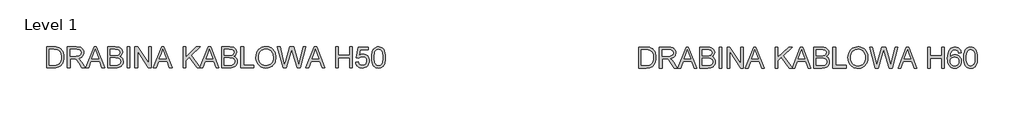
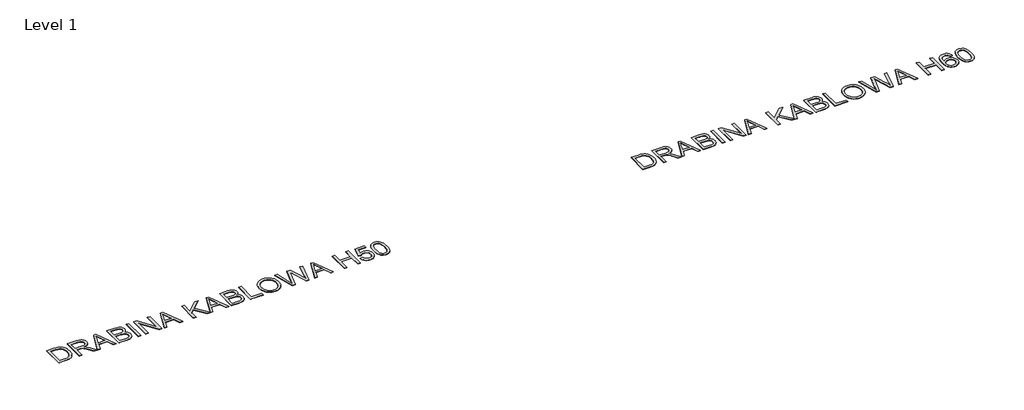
# One storey, part 9 of 9: 2 proxies.
"""IFC4 building model written with IfcOpenShell, lengths in millimetres."""

import ifcopenshell
import ifcopenshell.guid

model = None  # the IFC model being written
_history = None  # IfcOwnerHistory: only IFC2X3 demands one
_inside = {}  # id of a spatial element -> (the spatial element, [elements in it])
_under = {}  # id of a project, library or spatial element -> (it, [spatial elements below it])
_declared = {}  # id of a project -> (the project, [libraries it declares])
_typed = {}  # id of a type object -> (the type object, [elements of that type])
_made_of = {}  # id of a material, layer set ... -> (it, [elements and type objects made of it])


def new_model(schema):
    """Start an empty IFC model of exactly this schema.

    Asked for "IFC4X3", IfcOpenShell would pick the latest addendum, in which some entities
    have other attributes; the version numbers below select the first issue.
    IFC2X3 requires an IfcOwnerHistory on every rooted entity: one is made here for all.
    """
    global model, _history
    if schema == "IFC4X3":
        model = ifcopenshell.file(schema_version=(4, 3, 0, 0))
    else:
        model = ifcopenshell.file(schema=schema)
    _inside.clear()
    _under.clear()
    _declared.clear()
    _typed.clear()
    _made_of.clear()
    _history = None
    if model.schema == "IFC2X3":
        org = make("IfcOrganization", Name="unknown")
        user = make(
            "IfcPersonAndOrganization",
            ThePerson=make("IfcPerson", FamilyName="unknown"),
            TheOrganization=org,
        )
        app = make(
            "IfcApplication",
            ApplicationDeveloper=org,
            Version="unknown",
            ApplicationFullName="unknown",
            ApplicationIdentifier="unknown",
        )
        _history = make(
            "IfcOwnerHistory",
            OwningUser=user,
            OwningApplication=app,
            ChangeAction="ADDED",
            CreationDate=0,
        )
    return model


def make(cls, **values):
    """One entity of the class cls with the attributes given. An attribute that is None is left unset."""
    return model.create_entity(
        cls, **{name: value for name, value in values.items() if value is not None}
    )


def rooted(cls, **values):
    """An entity with a GlobalId (a new one), such as an element, a storey or a relation."""
    return make(cls, GlobalId=ifcopenshell.guid.new(), OwnerHistory=_history, **values)


def si_unit(unit_type, name, prefix=None):
    """IfcSIUnit, for example si_unit("LENGTHUNIT", "METRE", prefix="MILLI")."""
    return make("IfcSIUnit", UnitType=unit_type, Prefix=prefix, Name=name)


def assignment(units):
    """IfcUnitAssignment: the units of a project."""
    return None if units is None else make("IfcUnitAssignment", Units=units)


def point(xyz):
    """IfcCartesianPoint."""
    return None if xyz is None else make("IfcCartesianPoint", Coordinates=xyz)


def direction(xyz):
    """IfcDirection."""
    return None if xyz is None else make("IfcDirection", DirectionRatios=xyz)


def frame(location, z_axis=None, x_axis=None):
    """IfcAxis2Placement3D, a coordinate frame: its origin and axes. An axis left out is left unset."""
    return make(
        "IfcAxis2Placement3D",
        Location=point(location),
        Axis=direction(z_axis),
        RefDirection=direction(x_axis),
    )


def origin():
    """The frame at (0, 0, 0) with its axes left unset."""
    return frame((0.0, 0.0, 0.0))


def origin_with_axes():
    """The frame at (0, 0, 0) with the z axis (0, 0, 1) and the x axis (1, 0, 0) written out."""
    return frame((0.0, 0.0, 0.0), z_axis=(0.0, 0.0, 1.0), x_axis=(1.0, 0.0, 0.0))


def place(relative_to, where):
    """IfcLocalPlacement: puts the frame where relative to a parent placement (None: the world)."""
    return make(
        "IfcLocalPlacement", PlacementRelTo=relative_to, RelativePlacement=where
    )


def context(
    kind, dimensions, precision=None, world=None, true_north=None, identifier=None
):
    """IfcGeometricRepresentationContext, for example the 3D "Model" context."""
    return make(
        "IfcGeometricRepresentationContext",
        ContextIdentifier=identifier,
        ContextType=kind,
        CoordinateSpaceDimension=dimensions,
        Precision=precision,
        WorldCoordinateSystem=world,
        TrueNorth=true_north,
    )


def project(units=None, contexts=None):
    """IfcProject with its units and contexts."""
    return rooted(
        "IfcProject",
        Name="project",
        RepresentationContexts=contexts,
        UnitsInContext=assignment(units),
    )


def spatial(cls, under=None, at=None, **own):
    """A site, building, storey or space (cls), placed at a placement, below another one or the project."""
    s = rooted(cls, ObjectPlacement=at, **own)
    if under is not None:
        _under.setdefault(under.id(), (under, []))[1].append(s)
    return s


def polyline(points):
    """IfcPolyline through the points."""
    return make("IfcPolyline", Points=[point(p) for p in points])


def outline(outer, holes=None, kind="AREA"):
    """IfcArbitraryClosedProfileDef: a profile drawn as a closed curve; with holes, ...WithVoids."""
    if holes is None:
        return make("IfcArbitraryClosedProfileDef", ProfileType=kind, OuterCurve=outer)
    return make(
        "IfcArbitraryProfileDefWithVoids",
        ProfileType=kind,
        OuterCurve=outer,
        InnerCurves=holes,
    )


def extrude(swept, where, along, depth):
    """IfcExtrudedAreaSolid: the profile swept, set in the frame where, extruded along a direction by depth."""
    return make(
        "IfcExtrudedAreaSolid",
        SweptArea=swept,
        Position=where,
        ExtrudedDirection=direction(along),
        Depth=depth,
    )


def shape(context_of_items, identifier, shape_type, items):
    """IfcShapeRepresentation: the items that make up one representation, for example the "Body"."""
    return make(
        "IfcShapeRepresentation",
        ContextOfItems=context_of_items,
        RepresentationIdentifier=identifier,
        RepresentationType=shape_type,
        Items=items,
    )


def made_of(thing, what):
    """Note that an element or type object is made of a material, layer set ...; save() writes the relation."""
    if what is not None:
        _made_of.setdefault(what.id(), (what, []))[1].append(thing)
    return thing


def element(
    cls,
    number,
    at=None,
    inside=None,
    cuts=None,
    type_object=None,
    material=None,
    context=None,
    identifier="Body",
    shape_type=None,
    held_by="IfcProductDefinitionShape",
    body=None,
    shapes=None,
    **own,
):
    """One element of the class cls, such as IfcWall. Its Tag is "e" and its number.

    at: its placement. inside: the storey or other place that contains it. cuts: it is an
    opening in that element (IfcRelVoidsElement). A single representation is given by context,
    identifier, shape_type and body (its items); several are given by shapes. held_by: the class
    of the entity that holds the representations. save() writes the other relations.
    """
    e = rooted(cls, Tag="e%d" % number, ObjectPlacement=at, **own)
    if body is not None:
        shapes = [shape(context, identifier, shape_type, body)]
    if shapes is not None:
        e.Representation = make(held_by, Representations=shapes)
    if inside is not None:
        _inside.setdefault(inside.id(), (inside, []))[1].append(e)
    if cuts is not None:
        rooted(
            "IfcRelVoidsElement", RelatingBuildingElement=cuts, RelatedOpeningElement=e
        )
    if type_object is not None:
        _typed.setdefault(type_object.id(), (type_object, []))[1].append(e)
    return made_of(e, material)


def aggregate(whole, parts):
    """IfcRelAggregates: a whole, such as a stair, and the parts it consists of."""
    return rooted("IfcRelAggregates", RelatingObject=whole, RelatedObjects=parts)


def save(model, path):
    """Write the relations noted so far, then the file.

    IfcRelAggregates (storeys below a building ...), IfcRelContainedInSpatialStructure (elements
    in a storey), IfcRelDefinesByType, IfcRelAssociatesMaterial and IfcRelDeclares: one each for
    every whole, place, type object, material and project.
    """
    for whole, parts in _under.values():
        aggregate(whole, parts)
    for where, things in _inside.values():
        rooted(
            "IfcRelContainedInSpatialStructure",
            RelatedElements=things,
            RelatingStructure=where,
        )
    for kind, things in _typed.values():
        rooted("IfcRelDefinesByType", RelatedObjects=things, RelatingType=kind)
    for what, things in _made_of.values():
        rooted("IfcRelAssociatesMaterial", RelatedObjects=things, RelatingMaterial=what)
    for by, libraries in _declared.values():
        rooted("IfcRelDeclares", RelatingContext=by, RelatedDefinitions=libraries)
    model.write(path)


model = new_model("IFC4")

# Units and contexts
model_context = context("Model", 3, world=origin())
ifc_project = project(units=[si_unit("LENGTHUNIT", "METRE", prefix="MILLI")], contexts=[model_context])

# Site, building, storey
site = spatial("IfcSite", under=ifc_project)
building = spatial("IfcBuilding", under=site)
storey = spatial("IfcBuildingStorey", under=building, Name="Level 1", Elevation=0.0)

# Proxies
placement = place(None, origin())
element("IfcBuildingElementProxy", 1, Name="600mm Arial", ObjectType="600mm Arial", at=placement, inside=storey, context=model_context, shape_type="SweptSolid", body=[
    extrude(outline(polyline([(17173.9042945, 21573.8418267), (17173.9042945, 22164.6110574), (17377.7023714, 22164.6110574), (17438.6038137, 22162.4836536), (17483.1350637, 22156.1014421), (17530.2264099, 22139.6951921), (17569.9619868, 22113.8418267), (17591.8580204, 22092.712019), (17610.8153522, 22068.8418267), (17626.833982, 22042.2312497), (17639.9139099, 22012.8802882), (17650.0731647, 21981.0593747), (17657.3297753, 21947.0389421), (17663.1350637, 21872.399519), (17659.2047753, 21808.9920671), (17647.4139099, 21753.1927882), (17629.4571791, 21705.6867786), (17607.0292945, 21667.1591344), (17581.2119868, 21636.7444709), (17553.0869868, 21613.5774036), (17520.7973233, 21596.3959132), (17482.4860253, 21583.9379805), (17438.0809772, 21576.3658651), (17387.5100637, 21573.8418267), (17173.9042945, 21573.8418267)]), holes=[polyline([(17247.7504483, 21647.6879805), (17378.4235253, 21647.6879805), (17432.474006, 21650.3562497), (17473.4716022, 21658.3610574), (17504.4091022, 21671.2336536), (17528.2792945, 21688.5052882), (17553.9343426, 21720.4704324), (17573.2071791, 21761.8466344), (17585.2684772, 21812.8141824), (17589.2889099, 21873.5533651), (17587.3192584, 21916.4259613), (17581.4103041, 21954.0341344), (17571.5620469, 21986.3778844), (17557.7744868, 22013.4572113), (17541.1654123, 22035.8850959), (17522.8526118, 22054.274519), (17502.8360854, 22068.6254805), (17481.1158329, 22078.9379805), (17438.6398714, 22087.8081728), (17376.4042945, 22090.7649036), (17247.7504483, 22090.7649036), (17247.7504483, 21647.6879805)])]), origin_with_axes(), (0.0, 0.0, 1.0), 10.0),
    extrude(outline(polyline([(17764.6735253, 21573.8418267), (17764.6735253, 22164.6110574), (18019.2408329, 22164.6110574), (18087.6603041, 22160.6266824), (18137.4379483, 22148.6735574), (18156.6476839, 22139.1723555), (18173.8201599, 22126.6062497), (18188.9553762, 22110.9752401), (18202.0533329, 22092.2793267), (18212.622744, 22071.5236175), (18220.1723233, 22049.7132209), (18226.2119868, 22002.9283651), (18223.7104844, 21972.5858171), (18216.2059772, 21944.7312497), (18203.6984652, 21919.3646632), (18186.1879483, 21896.4860574), (18163.4490661, 21876.8256007), (18135.2564579, 21861.1134613), (18101.6101238, 21849.3496392), (18062.5100637, 21841.5341344), (18086.849006, 21825.6326921), (18104.4812176, 21809.9475959), (18164.3369868, 21733.9379805), (18262.8466022, 21573.8418267), (18177.0292945, 21573.8418267), (18100.1542945, 21696.2937497), (18044.6254483, 21777.3514421), (18023.9824195, 21800.9872594), (18005.6110253, 21815.6447113), (17970.4908329, 21829.7072113), (17927.6542945, 21832.3033651), (17838.5196791, 21832.3033651), (17838.5196791, 21573.8418267), (17764.6735253, 21573.8418267)]), holes=[polyline([(17838.5196791, 21906.149519), (18003.8081406, 21906.149519), (18051.2780926, 21908.7637017), (18088.1110253, 21916.6062497), (18115.8393906, 21930.1999997), (18135.9956406, 21950.0677882), (18148.2732849, 21974.1002401), (18152.3658329, 22000.1879805), (18150.4142104, 22019.0731969), (18144.5593426, 22036.2096151), (18134.8012296, 22051.5972353), (18121.1398714, 22065.2360574), (18103.2597632, 22076.4049276), (18080.8454003, 22084.3826921), (18053.8967825, 22089.1693507), (18022.4139099, 22090.7649036), (17838.5196791, 22090.7649036), (17838.5196791, 21906.149519)])]), origin_with_axes(), (0.0, 0.0, 1.0), 10.0),
    extrude(outline(polyline([(18286.6446791, 21573.8418267), (18522.4619868, 22164.6110574), (18585.3466022, 22164.6110574), (18821.1639099, 21573.8418267), (18743.1350637, 21573.8418267), (18675.4908329, 21758.4572113), (18432.1735253, 21758.4572113), (18364.6735253, 21573.8418267), (18286.6446791, 21573.8418267)]), holes=[polyline([(18459.2889099, 21832.3033651), (18648.5196791, 21832.3033651), (18595.2985253, 21977.5437497), (18553.9042945, 22090.7649036), (18517.1254483, 21990.2360574), (18459.2889099, 21832.3033651)])]), origin_with_axes(), (0.0, 0.0, 1.0), 10.0),
    extrude(outline(polyline([(18900.0581406, 21573.8418267), (18900.0581406, 22164.6110574), (19125.4908329, 22164.6110574), (19187.4920349, 22160.2661055), (19235.8994868, 22147.2312497), (19273.0028522, 22125.1819709), (19288.1741262, 22110.6552281), (19301.0917945, 22093.7937497), (19318.7780926, 22056.8706728), (19324.6735253, 22018.2168267), (19319.7155926, 21982.6459132), (19304.8417945, 21949.2024036), (19279.9439579, 21919.9415863), (19244.9139099, 21896.9187497), (19267.2020709, 21887.4175478), (19286.7588618, 21875.0677882), (19303.5842825, 21859.8694709), (19317.6783329, 21841.8225959), (19328.8156527, 21821.477043), (19336.770881, 21799.3826921), (19341.544018, 21775.539543), (19343.1350637, 21749.9475959), (19338.7901118, 21708.7516824), (19325.755256, 21670.5485574), (19306.302131, 21638.0605767), (19282.7023714, 21614.0100959), (19253.802131, 21596.5942305), (19218.4475637, 21584.0100959), (19175.4848233, 21576.383894), (19123.7600637, 21573.8418267), (18900.0581406, 21573.8418267)]), holes=[polyline([(18973.9042945, 21924.6110574), (19108.7600637, 21924.6110574), (19155.9235253, 21926.1975959), (19187.5100637, 21930.9572113), (19215.0761695, 21941.9007209), (19234.8898714, 21958.2889421), (19246.8429964, 21979.8694709), (19250.8273714, 22006.3899036), (19247.1134291, 22032.1350959), (19235.9716022, 22054.5629805), (19217.9066983, 22072.0689901), (19193.4235253, 22083.0485574), (19155.8514099, 22088.8358171), (19098.5196791, 22090.7649036), (18973.9042945, 22090.7649036), (18973.9042945, 21924.6110574)]), polyline([(18973.9042945, 21647.6879805), (19125.3466022, 21647.6879805), (19180.1542945, 21650.5725959), (19205.5929964, 21656.9728363), (19226.5244868, 21666.6543267), (19243.5437176, 21680.5185094), (19257.2456406, 21699.4668267), (19266.2780926, 21722.6519228), (19269.2889099, 21749.2264421), (19265.755256, 21780.0918267), (19255.1542945, 21806.6302882), (19236.6386695, 21827.3814901), (19209.3610253, 21840.8850959), (19170.7252079, 21848.2949517), (19118.1350637, 21850.7649036), (18973.9042945, 21850.7649036), (18973.9042945, 21647.6879805)])]), origin_with_axes(), (0.0, 0.0, 1.0), 10.0),
    extrude(outline(polyline([(19453.9042945, 21573.8418267), (19453.9042945, 22164.6110574), (19527.7504483, 22164.6110574), (19527.7504483, 21573.8418267), (19453.9042945, 21573.8418267)])), origin_with_axes(), (0.0, 0.0, 1.0), 10.0),
    extrude(outline(polyline([(19675.442756, 21573.8418267), (19675.442756, 22164.6110574), (19754.4812176, 22164.6110574), (20063.1350637, 21696.5822113), (20063.1350637, 22164.6110574), (20136.9812176, 22164.6110574), (20136.9812176, 21573.8418267), (20057.942756, 21573.8418267), (19749.2889099, 22042.0149036), (19749.2889099, 21573.8418267), (19675.442756, 21573.8418267)])), origin_with_axes(), (0.0, 0.0, 1.0), 10.0),
    extrude(outline(polyline([(20197.4139099, 21573.8418267), (20433.2312176, 22164.6110574), (20496.1158329, 22164.6110574), (20731.9331406, 21573.8418267), (20653.9042945, 21573.8418267), (20586.2600637, 21758.4572113), (20342.942756, 21758.4572113), (20275.442756, 21573.8418267), (20197.4139099, 21573.8418267)]), holes=[polyline([(20370.0581406, 21832.3033651), (20559.2889099, 21832.3033651), (20506.067756, 21977.5437497), (20464.6735253, 22090.7649036), (20427.8946791, 21990.2360574), (20370.0581406, 21832.3033651)])]), origin_with_axes(), (0.0, 0.0, 1.0), 10.0),
    extrude(outline(polyline([(21041.5966022, 21573.8418267), (21041.5966022, 22164.6110574), (21115.442756, 22164.6110574), (21115.442756, 21875.4283651), (21418.3273714, 22164.6110574), (21521.5966022, 22164.6110574), (21267.317756, 21921.7264421), (21530.8273714, 21573.8418267), (21440.5389099, 21573.8418267), (21214.9619868, 21871.8225959), (21115.442756, 21776.9187497), (21115.442756, 21573.8418267), (21041.5966022, 21573.8418267)])), origin_with_axes(), (0.0, 0.0, 1.0), 10.0),
    extrude(outline(polyline([(21517.4139099, 21573.8418267), (21753.2312176, 22164.6110574), (21816.1158329, 22164.6110574), (22051.9331406, 21573.8418267), (21973.9042945, 21573.8418267), (21906.2600637, 21758.4572113), (21662.942756, 21758.4572113), (21595.442756, 21573.8418267), (21517.4139099, 21573.8418267)]), holes=[polyline([(21690.0581406, 21832.3033651), (21879.2889099, 21832.3033651), (21826.067756, 21977.5437497), (21784.6735253, 22090.7649036), (21747.8946791, 21990.2360574), (21690.0581406, 21832.3033651)])]), origin_with_axes(), (0.0, 0.0, 1.0), 10.0),
    extrude(outline(polyline([(22130.8273714, 21573.8418267), (22130.8273714, 22164.6110574), (22356.2600637, 22164.6110574), (22418.2612656, 22160.2661055), (22466.6687176, 22147.2312497), (22503.7720829, 22125.1819709), (22518.943357, 22110.6552281), (22531.8610253, 22093.7937497), (22549.5473233, 22056.8706728), (22555.442756, 22018.2168267), (22550.4848233, 21982.6459132), (22535.6110253, 21949.2024036), (22510.7131887, 21919.9415863), (22475.6831406, 21896.9187497), (22497.9713017, 21887.4175478), (22517.5280926, 21875.0677882), (22534.3535132, 21859.8694709), (22548.4475637, 21841.8225959), (22559.5848834, 21821.477043), (22567.5401118, 21799.3826921), (22572.3132488, 21775.539543), (22573.9042945, 21749.9475959), (22569.5593426, 21708.7516824), (22556.5244868, 21670.5485574), (22537.0713618, 21638.0605767), (22513.4716022, 21614.0100959), (22484.5713618, 21596.5942305), (22449.2167945, 21584.0100959), (22406.2540541, 21576.383894), (22354.5292945, 21573.8418267), (22130.8273714, 21573.8418267)]), holes=[polyline([(22204.6735253, 21924.6110574), (22339.5292945, 21924.6110574), (22386.692756, 21926.1975959), (22418.2792945, 21930.9572113), (22445.8454003, 21941.9007209), (22465.6591022, 21958.2889421), (22477.6122272, 21979.8694709), (22481.5966022, 22006.3899036), (22477.8826599, 22032.1350959), (22466.7408329, 22054.5629805), (22448.6759291, 22072.0689901), (22424.192756, 22083.0485574), (22386.6206406, 22088.8358171), (22329.2889099, 22090.7649036), (22204.6735253, 22090.7649036), (22204.6735253, 21924.6110574)]), polyline([(22204.6735253, 21647.6879805), (22356.1158329, 21647.6879805), (22410.9235253, 21650.5725959), (22436.3622272, 21656.9728363), (22457.2937176, 21666.6543267), (22474.3129483, 21680.5185094), (22488.0148714, 21699.4668267), (22497.0473233, 21722.6519228), (22500.0581406, 21749.2264421), (22496.5244868, 21780.0918267), (22485.9235253, 21806.6302882), (22467.4079003, 21827.3814901), (22440.130256, 21840.8850959), (22401.4944387, 21848.2949517), (22348.9042945, 21850.7649036), (22204.6735253, 21850.7649036), (22204.6735253, 21647.6879805)])]), origin_with_axes(), (0.0, 0.0, 1.0), 10.0),
    extrude(outline(polyline([(22675.442756, 21573.8418267), (22675.442756, 22164.6110574), (22749.2889099, 22164.6110574), (22749.2889099, 21647.6879805), (23044.6735253, 21647.6879805), (23044.6735253, 21573.8418267), (22675.442756, 21573.8418267)])), origin_with_axes(), (0.0, 0.0, 1.0), 10.0),
    extrude(outline(polyline([(23100.0581406, 21861.4379805), (23104.9800156, 21930.7318507), (23119.7456406, 21992.0749997), (23144.3550156, 22045.4674276), (23178.8081406, 22090.9091344), (23221.0407128, 22127.1921872), (23268.9884291, 22153.1086536), (23322.6512897, 22168.6585334), (23382.0292945, 22173.8418267), (23421.7738858, 22171.4079324), (23459.5172753, 22164.1062497), (23495.2594628, 22151.9367786), (23529.0004483, 22134.899519), (23559.7937176, 22113.508293), (23586.692756, 22088.2769228), (23609.6975637, 22059.2054084), (23628.8081406, 22026.2937497), (23643.8261695, 21990.290144), (23654.5533329, 21951.9427882), (23660.989631, 21911.2516824), (23663.1350637, 21868.2168267), (23660.8769507, 21824.6140622), (23654.1026118, 21783.3730767), (23642.8120469, 21744.4938699), (23627.005256, 21707.9764421), (23607.0563378, 21674.7853363), (23583.3393906, 21645.8850959), (23555.8544147, 21621.2757209), (23524.6014099, 21600.9572113), (23490.810845, 21585.055769), (23455.7131887, 21573.6975959), (23419.3084411, 21566.8826921), (23381.5966022, 21564.6110574), (23341.1579003, 21567.1215743), (23302.9187176, 21574.6531247), (23266.8790541, 21587.2057089), (23233.0389099, 21604.7793267), (23202.2816983, 21626.6933892), (23175.4908329, 21652.2673074), (23152.6663137, 21681.5010815), (23133.8081406, 21714.3947113), (23119.0425156, 21749.6275839), (23108.4956406, 21785.8790863), (23102.1675156, 21823.1492185), (23100.0581406, 21861.4379805)]), holes=[polyline([(23173.9042945, 21860.7168267), (23177.5957007, 21811.7594949), (23188.6699195, 21768.3009613), (23207.1269507, 21730.3412257), (23232.9667945, 21697.8802882), (23264.3775517, 21671.8826921), (23299.5473233, 21653.3129805), (23338.4761094, 21642.1711536), (23381.1639099, 21638.4572113), (23424.5818786, 21642.2072113), (23463.9704003, 21653.4572113), (23499.3294748, 21672.2072113), (23530.6591022, 21698.4572113), (23556.309643, 21731.6032449), (23574.6314579, 21771.0413459), (23585.6245469, 21816.7715142), (23589.2889099, 21868.7937497), (23587.7204003, 21902.5888219), (23583.0148714, 21934.1663459), (23575.1723233, 21963.5263219), (23564.192756, 21990.6687497), (23550.1978642, 22015.2375598), (23533.3093426, 22036.8766824), (23513.5271911, 22055.5861175), (23490.8514099, 22071.3658651), (23465.9851238, 22083.891406), (23439.6314579, 22092.8382209), (23411.7904123, 22098.2063098), (23382.4619868, 22099.9956728), (23341.2570589, 22096.547656), (23303.0268906, 22086.2036055), (23267.771482, 22068.9635214), (23235.4908329, 22044.8274036), (23208.5467224, 22012.6323916), (23189.3009291, 21971.2156247), (23177.7534531, 21920.5771031), (23173.9042945, 21860.7168267)])]), origin_with_axes(), (0.0, 0.0, 1.0), 10.0),
    extrude(outline(polyline([(23870.3946791, 21573.8418267), (23709.2889099, 22164.6110574), (23785.442756, 22164.6110574), (23878.9042945, 21776.3418267), (23907.7504483, 21656.4860574), (23938.6158329, 21762.4956728), (24055.7312176, 22164.6110574), (24165.4908329, 22164.6110574), (24250.5869868, 21873.1206728), (24287.0413137, 21764.9475959), (24313.9042945, 21656.4860574), (24341.8850637, 21772.8802882), (24436.2119868, 22164.6110574), (24512.3658329, 22164.6110574), (24351.1158329, 21573.8418267), (24272.2216022, 21573.8418267), (24130.5869868, 22029.6110574), (24110.8273714, 22093.2168267), (24088.6158329, 22016.6302882), (23959.5292945, 21573.8418267), (23870.3946791, 21573.8418267)])), origin_with_axes(), (0.0, 0.0, 1.0), 10.0),
    extrude(outline(polyline([(24517.4139099, 21573.8418267), (24753.2312176, 22164.6110574), (24816.1158329, 22164.6110574), (25051.9331406, 21573.8418267), (24973.9042945, 21573.8418267), (24906.2600637, 21758.4572113), (24662.942756, 21758.4572113), (24595.442756, 21573.8418267), (24517.4139099, 21573.8418267)]), holes=[polyline([(24690.0581406, 21832.3033651), (24879.2889099, 21832.3033651), (24826.067756, 21977.5437497), (24784.6735253, 22090.7649036), (24747.8946791, 21990.2360574), (24690.0581406, 21832.3033651)])]), origin_with_axes(), (0.0, 0.0, 1.0), 10.0),
    extrude(outline(polyline([(25361.5966022, 21573.8418267), (25361.5966022, 22164.6110574), (25435.442756, 22164.6110574), (25435.442756, 21924.6110574), (25749.2889099, 21924.6110574), (25749.2889099, 22164.6110574), (25823.1350637, 22164.6110574), (25823.1350637, 21573.8418267), (25749.2889099, 21573.8418267), (25749.2889099, 21850.7649036), (25435.442756, 21850.7649036), (25435.442756, 21573.8418267), (25361.5966022, 21573.8418267)])), origin_with_axes(), (0.0, 0.0, 1.0), 10.0),
    extrude(outline(polyline([(25924.6735253, 21730.7649036), (25998.5196791, 21739.9956728), (26004.036506, 21716.2561896), (26012.0773714, 21695.6627401), (26022.6422753, 21678.2153243), (26035.7312176, 21663.9139421), (26051.3171551, 21652.7766223), (26069.3730445, 21644.821394), (26089.8988858, 21640.048257), (26112.8946791, 21638.4572113), (26141.0196791, 21640.6702521), (26165.8273714, 21647.3093747), (26187.317756, 21658.3745791), (26205.4908329, 21673.8658651), (26219.9409531, 21693.017007), (26230.2624676, 21715.0617786), (26236.4553762, 21740.00018), (26238.5196791, 21767.8322113), (26236.5860854, 21794.1362978), (26230.7853041, 21817.5197113), (26221.1173354, 21837.9824517), (26207.5821791, 21855.524519), (26190.1347632, 21869.5960334), (26168.7300156, 21879.6471151), (26143.3679363, 21885.6777642), (26114.0485253, 21887.6879805), (26078.2252079, 21884.4788459), (26049.2167945, 21874.8514421), (26026.0497272, 21860.1038459), (26007.7504483, 21841.5341344), (25933.9042945, 21850.7649036), (25998.5196791, 22155.3802882), (26284.6735253, 22155.3802882), (26284.6735253, 22081.5341344), (26058.2312176, 22081.5341344), (26026.6446791, 21918.8418267), (26052.7053762, 21937.5197113), (26079.3970829, 21950.8610574), (26106.7197993, 21958.8658651), (26134.6735253, 21961.5341344), (26170.6365661, 21958.2258411), (26203.6699195, 21948.3009613), (26233.7735854, 21931.7594949), (26260.9475637, 21908.6014421), (26283.4430565, 21880.2420671), (26299.5112656, 21848.0966344), (26309.1521911, 21812.165144), (26312.3658329, 21772.4475959), (26309.4722031, 21734.1903844), (26300.7913137, 21698.6014421), (26286.3231647, 21665.680769), (26266.067756, 21635.4283651), (26235.3826599, 21604.445793), (26199.5773714, 21582.3153844), (26158.6518906, 21569.0371392), (26112.6062176, 21564.6110574), (26074.497744, 21567.4551079), (26040.0761695, 21575.9872594), (26009.341494, 21590.2075118), (25982.2937176, 21610.1158651), (25959.7892104, 21634.7207329), (25942.6843426, 21663.0305286), (25930.9791142, 21695.0452521), (25924.6735253, 21730.7649036)])), origin_with_axes(), (0.0, 0.0, 1.0), 10.0),
    extrude(outline(polyline([(26376.9812176, 21864.4668267), (26382.4079003, 21959.0281247), (26389.1912536, 21999.1287858), (26398.6879483, 22034.4427882), (26410.8574195, 22065.2585935), (26425.6591022, 22091.8646632), (26443.0929964, 22114.2609973), (26463.1591022, 22132.4475959), (26485.9250277, 22146.5191103), (26511.458381, 22156.5701921), (26539.7591623, 22162.6008411), (26570.8273714, 22164.6110574), (26616.3321791, 22159.8514421), (26657.0773714, 22145.5725959), (26691.1518906, 22122.3334132), (26716.6446791, 22090.6927882), (26735.8994868, 22050.9211536), (26751.2600637, 22003.2889421), (26761.3201599, 21942.8021632), (26764.6735253, 21864.4668267), (26759.3009291, 21770.446394), (26752.5851839, 21730.4809493), (26743.1831406, 21695.212019), (26731.1083209, 21664.3826921), (26716.3742464, 21637.7360574), (26698.9809171, 21615.2721151), (26678.9283329, 21596.9908651), (26656.1353642, 21582.8246993), (26630.520881, 21572.7060094), (26602.0848834, 21566.6347954), (26570.8273714, 21564.6110574), (26530.1542945, 21568.1266824), (26494.0966022, 21578.6735574), (26462.6542945, 21596.2516824), (26435.8273714, 21620.8610574), (26410.0821791, 21665.3472353), (26391.692756, 21720.7769228), (26380.6591022, 21787.1501199), (26376.9812176, 21864.4668267)]), holes=[polyline([(26450.8273714, 21864.6110574), (26452.9908329, 21800.4148435), (26459.4812176, 21748.4512017), (26470.2985253, 21708.720132), (26485.442756, 21681.2216344), (26503.7600637, 21662.5121993), (26524.0966022, 21649.1483171), (26546.4523714, 21641.1299877), (26570.8273714, 21638.4572113), (26595.2023714, 21641.1390021), (26617.5581406, 21649.1843747), (26637.8946791, 21662.5933291), (26656.2119868, 21681.3658651), (26671.3562176, 21708.9094348), (26682.1735253, 21748.6314901), (26688.6639099, 21800.532031), (26690.8273714, 21864.6110574), (26688.7360253, 21927.1080526), (26682.4619868, 21978.1567305), (26672.005256, 22017.7570911), (26657.3658329, 22045.9091344), (26639.3550156, 22065.5335334), (26618.7841022, 22079.5509613), (26595.6530926, 22087.961418), (26569.9619868, 22090.7649036), (26545.7131887, 22088.2949517), (26523.7360253, 22080.8850959), (26504.0304964, 22068.5353363), (26486.5966022, 22051.2456728), (26470.9475637, 22020.5966344), (26459.7696791, 21979.274519), (26453.0629483, 21927.2793267), (26450.8273714, 21864.6110574)])]), origin_with_axes(), (0.0, 0.0, 1.0), 10.0),
])
element("IfcBuildingElementProxy", 2, Name="600mm Arial", ObjectType="600mm Arial", at=placement, inside=storey, context=model_context, shape_type="SweptSolid", body=[
    extrude(outline(polyline([(33933.0669492, 21566.1512406), (33933.0669492, 22156.9204714), (34136.8650261, 22156.9204714), (34197.7664684, 22154.7930675), (34242.2977184, 22148.410856), (34289.3890646, 22132.004606), (34329.1246415, 22106.1512406), (34351.0206752, 22085.0214329), (34369.9780069, 22061.1512406), (34385.9966367, 22034.5406637), (34399.0765646, 22005.1897022), (34409.2358194, 21973.3687887), (34416.49243, 21939.348356), (34422.2977184, 21864.7089329), (34418.36743, 21801.301481), (34406.5765646, 21745.5022022), (34388.6198338, 21697.9961925), (34366.1919492, 21659.4685483), (34340.3746415, 21629.0538848), (34312.2496415, 21605.8868175), (34279.959978, 21588.7053272), (34241.64868, 21576.2473945), (34197.2436319, 21568.6752791), (34146.6727184, 21566.1512406), (33933.0669492, 21566.1512406)]), holes=[polyline([(34006.913103, 21639.9973945), (34137.58618, 21639.9973945), (34191.6366607, 21642.6656637), (34232.6342569, 21650.6704714), (34263.5717569, 21663.5430675), (34287.4419492, 21680.8147022), (34313.0969973, 21712.7798464), (34332.3698338, 21754.1560483), (34344.4311319, 21805.1235964), (34348.4515646, 21865.8627791), (34346.4819131, 21908.7353752), (34340.5729588, 21946.3435483), (34330.7247016, 21978.6872983), (34316.9371415, 22005.7666252), (34300.328067, 22028.1945098), (34282.0152665, 22046.5839329), (34261.9987401, 22060.9348945), (34240.2784877, 22071.2473945), (34197.8025261, 22080.1175868), (34135.5669492, 22083.0743175), (34006.913103, 22083.0743175), (34006.913103, 21639.9973945)])]), origin_with_axes(), (0.0, 0.0, 1.0), 10.0),
    extrude(outline(polyline([(34523.83618, 21566.1512406), (34523.83618, 22156.9204714), (34778.4034877, 22156.9204714), (34846.8229588, 22152.9360964), (34896.600603, 22140.9829714), (34915.8103386, 22131.4817695), (34932.9828146, 22118.9156637), (34948.1180309, 22103.2846541), (34961.2159877, 22084.5887406), (34971.7853987, 22063.8330315), (34979.334978, 22042.0226348), (34985.3746415, 21995.2377791), (34982.8731391, 21964.895231), (34975.3686319, 21937.0406637), (34962.8611199, 21911.6740772), (34945.350603, 21888.7954714), (34922.6117208, 21869.1350147), (34894.4191127, 21853.4228752), (34860.7727785, 21841.6590531), (34821.6727184, 21833.8435483), (34846.0116607, 21817.942106), (34863.6438723, 21802.2570098), (34923.4996415, 21726.2473945), (35022.0092569, 21566.1512406), (34936.1919492, 21566.1512406), (34859.3169492, 21688.6031637), (34803.788103, 21769.660856), (34783.1450742, 21793.2966733), (34764.77368, 21807.9541252), (34729.6534877, 21822.0166252), (34686.8169492, 21824.6127791), (34597.6823338, 21824.6127791), (34597.6823338, 21566.1512406), (34523.83618, 21566.1512406)]), holes=[polyline([(34597.6823338, 21898.4589329), (34762.9707953, 21898.4589329), (34810.4407473, 21901.0731156), (34847.27368, 21908.9156637), (34875.0020453, 21922.5094137), (34895.1582953, 21942.3772022), (34907.4359396, 21966.4096541), (34911.5284877, 21992.4973945), (34909.5768651, 22011.3826108), (34903.7219973, 22028.5190291), (34893.9638843, 22043.9066493), (34880.3025261, 22057.5454714), (34862.4224179, 22068.7143416), (34840.008055, 22076.692106), (34813.0594372, 22081.4787647), (34781.5765646, 22083.0743175), (34597.6823338, 22083.0743175), (34597.6823338, 21898.4589329)])]), origin_with_axes(), (0.0, 0.0, 1.0), 10.0),
    extrude(outline(polyline([(35045.8073338, 21566.1512406), (35281.6246415, 22156.9204714), (35344.5092569, 22156.9204714), (35580.3265646, 21566.1512406), (35502.2977184, 21566.1512406), (35434.6534877, 21750.7666252), (35191.33618, 21750.7666252), (35123.83618, 21566.1512406), (35045.8073338, 21566.1512406)]), holes=[polyline([(35218.4515646, 21824.6127791), (35407.6823338, 21824.6127791), (35354.46118, 21969.8531637), (35313.0669492, 22083.0743175), (35276.288103, 21982.5454714), (35218.4515646, 21824.6127791)])]), origin_with_axes(), (0.0, 0.0, 1.0), 10.0),
    extrude(outline(polyline([(35659.2207953, 21566.1512406), (35659.2207953, 22156.9204714), (35884.6534877, 22156.9204714), (35946.6546896, 22152.5755195), (35995.0621415, 22139.5406637), (36032.1655069, 22117.4913848), (36047.3367809, 22102.9646421), (36060.2544492, 22086.1031637), (36077.9407473, 22049.1800868), (36083.83618, 22010.5262406), (36078.8782473, 21974.9553272), (36064.0044492, 21941.5118175), (36039.1066127, 21912.2510002), (36004.0765646, 21889.2281637), (36026.3647256, 21879.7269618), (36045.9215165, 21867.3772022), (36062.7469372, 21852.1788848), (36076.8409877, 21834.1320098), (36087.9783074, 21813.786457), (36095.9335357, 21791.692106), (36100.7066727, 21767.848957), (36102.2977184, 21742.2570098), (36097.9527665, 21701.0610964), (36084.9179107, 21662.8579714), (36065.4647857, 21630.3699906), (36041.8650261, 21606.3195098), (36012.9647857, 21588.9036445), (35977.6102184, 21576.3195098), (35934.647478, 21568.6933079), (35882.9227184, 21566.1512406), (35659.2207953, 21566.1512406)]), holes=[polyline([(35733.0669492, 21916.9204714), (35867.9227184, 21916.9204714), (35915.08618, 21918.5070098), (35946.6727184, 21923.2666252), (35974.2388242, 21934.2101348), (35994.0525261, 21950.598356), (36006.0056511, 21972.1788848), (36009.9900261, 21998.6993175), (36006.2760838, 22024.4445098), (35995.1342569, 22046.8723945), (35977.069353, 22064.3784041), (35952.58618, 22075.3579714), (35915.0140646, 22081.145231), (35857.6823338, 22083.0743175), (35733.0669492, 22083.0743175), (35733.0669492, 21916.9204714)]), polyline([(35733.0669492, 21639.9973945), (35884.5092569, 21639.9973945), (35939.3169492, 21642.8820098), (35964.7556511, 21649.2822502), (35985.6871415, 21658.9637406), (36002.7063723, 21672.8279233), (36016.4082953, 21691.7762406), (36025.4407473, 21714.9613368), (36028.4515646, 21741.535856), (36024.9179107, 21772.4012406), (36014.3169492, 21798.9397022), (35995.8013242, 21819.6909041), (35968.52368, 21833.1945098), (35929.8878627, 21840.6043656), (35877.2977184, 21843.0743175), (35733.0669492, 21843.0743175), (35733.0669492, 21639.9973945)])]), origin_with_axes(), (0.0, 0.0, 1.0), 10.0),
    extrude(outline(polyline([(36213.0669492, 21566.1512406), (36213.0669492, 22156.9204714), (36286.913103, 22156.9204714), (36286.913103, 21566.1512406), (36213.0669492, 21566.1512406)])), origin_with_axes(), (0.0, 0.0, 1.0), 10.0),
    extrude(outline(polyline([(36434.6054107, 21566.1512406), (36434.6054107, 22156.9204714), (36513.6438723, 22156.9204714), (36822.2977184, 21688.8916252), (36822.2977184, 22156.9204714), (36896.1438723, 22156.9204714), (36896.1438723, 21566.1512406), (36817.1054107, 21566.1512406), (36508.4515646, 22034.3243175), (36508.4515646, 21566.1512406), (36434.6054107, 21566.1512406)])), origin_with_axes(), (0.0, 0.0, 1.0), 10.0),
    extrude(outline(polyline([(36956.5765646, 21566.1512406), (37192.3938723, 22156.9204714), (37255.2784877, 22156.9204714), (37491.0957953, 21566.1512406), (37413.0669492, 21566.1512406), (37345.4227184, 21750.7666252), (37102.1054107, 21750.7666252), (37034.6054107, 21566.1512406), (36956.5765646, 21566.1512406)]), holes=[polyline([(37129.2207953, 21824.6127791), (37318.4515646, 21824.6127791), (37265.2304107, 21969.8531637), (37223.83618, 22083.0743175), (37187.0573338, 21982.5454714), (37129.2207953, 21824.6127791)])]), origin_with_axes(), (0.0, 0.0, 1.0), 10.0),
    extrude(outline(polyline([(37800.7592569, 21566.1512406), (37800.7592569, 22156.9204714), (37874.6054107, 22156.9204714), (37874.6054107, 21867.7377791), (38177.4900261, 22156.9204714), (38280.7592569, 22156.9204714), (38026.4804107, 21914.035856), (38289.9900261, 21566.1512406), (38199.7015646, 21566.1512406), (37974.1246415, 21864.1320098), (37874.6054107, 21769.2281637), (37874.6054107, 21566.1512406), (37800.7592569, 21566.1512406)])), origin_with_axes(), (0.0, 0.0, 1.0), 10.0),
    extrude(outline(polyline([(38276.5765646, 21566.1512406), (38512.3938723, 22156.9204714), (38575.2784877, 22156.9204714), (38811.0957953, 21566.1512406), (38733.0669492, 21566.1512406), (38665.4227184, 21750.7666252), (38422.1054107, 21750.7666252), (38354.6054107, 21566.1512406), (38276.5765646, 21566.1512406)]), holes=[polyline([(38449.2207953, 21824.6127791), (38638.4515646, 21824.6127791), (38585.2304107, 21969.8531637), (38543.83618, 22083.0743175), (38507.0573338, 21982.5454714), (38449.2207953, 21824.6127791)])]), origin_with_axes(), (0.0, 0.0, 1.0), 10.0),
    extrude(outline(polyline([(38889.9900261, 21566.1512406), (38889.9900261, 22156.9204714), (39115.4227184, 22156.9204714), (39177.4239203, 22152.5755195), (39225.8313723, 22139.5406637), (39262.9347377, 22117.4913848), (39278.1060117, 22102.9646421), (39291.02368, 22086.1031637), (39308.709978, 22049.1800868), (39314.6054107, 22010.5262406), (39309.647478, 21974.9553272), (39294.77368, 21941.5118175), (39269.8758434, 21912.2510002), (39234.8457953, 21889.2281637), (39257.1339564, 21879.7269618), (39276.6907473, 21867.3772022), (39293.5161679, 21852.1788848), (39307.6102184, 21834.1320098), (39318.7475381, 21813.786457), (39326.7027665, 21791.692106), (39331.4759035, 21767.848957), (39333.0669492, 21742.2570098), (39328.7219973, 21701.0610964), (39315.6871415, 21662.8579714), (39296.2340165, 21630.3699906), (39272.6342569, 21606.3195098), (39243.7340165, 21588.9036445), (39208.3794492, 21576.3195098), (39165.4167088, 21568.6933079), (39113.6919492, 21566.1512406), (38889.9900261, 21566.1512406)]), holes=[polyline([(38963.83618, 21916.9204714), (39098.6919492, 21916.9204714), (39145.8554107, 21918.5070098), (39177.4419492, 21923.2666252), (39205.008055, 21934.2101348), (39224.8217569, 21950.598356), (39236.7748819, 21972.1788848), (39240.7592569, 21998.6993175), (39237.0453146, 22024.4445098), (39225.9034877, 22046.8723945), (39207.8385838, 22064.3784041), (39183.3554107, 22075.3579714), (39145.7832953, 22081.145231), (39088.4515646, 22083.0743175), (38963.83618, 22083.0743175), (38963.83618, 21916.9204714)]), polyline([(38963.83618, 21639.9973945), (39115.2784877, 21639.9973945), (39170.08618, 21642.8820098), (39195.5248819, 21649.2822502), (39216.4563723, 21658.9637406), (39233.475603, 21672.8279233), (39247.1775261, 21691.7762406), (39256.209978, 21714.9613368), (39259.2207953, 21741.535856), (39255.6871415, 21772.4012406), (39245.08618, 21798.9397022), (39226.570555, 21819.6909041), (39199.2929107, 21833.1945098), (39160.6570934, 21840.6043656), (39108.0669492, 21843.0743175), (38963.83618, 21843.0743175), (38963.83618, 21639.9973945)])]), origin_with_axes(), (0.0, 0.0, 1.0), 10.0),
    extrude(outline(polyline([(39434.6054107, 21566.1512406), (39434.6054107, 22156.9204714), (39508.4515646, 22156.9204714), (39508.4515646, 21639.9973945), (39803.83618, 21639.9973945), (39803.83618, 21566.1512406), (39434.6054107, 21566.1512406)])), origin_with_axes(), (0.0, 0.0, 1.0), 10.0),
    extrude(outline(polyline([(39859.2207953, 21853.7473945), (39864.1426703, 21923.0412647), (39878.9082953, 21984.3844137), (39903.5176703, 22037.7768416), (39937.9707953, 22083.2185483), (39980.2033675, 22119.5016012), (40028.1510838, 22145.4180675), (40081.8139444, 22160.9679473), (40141.1919492, 22166.1512406), (40180.9365405, 22163.7173464), (40218.67993, 22156.4156637), (40254.4221175, 22144.2461925), (40288.163103, 22127.2089329), (40318.9563723, 22105.817707), (40345.8554107, 22080.5863368), (40368.8602184, 22051.5148223), (40387.9707953, 22018.6031637), (40402.9888242, 21982.5995579), (40413.7159877, 21944.2522022), (40420.1522857, 21903.5610964), (40422.2977184, 21860.5262406), (40420.0396054, 21816.9234762), (40413.2652665, 21775.6824906), (40401.9747016, 21736.8032839), (40386.1679107, 21700.285856), (40366.2189925, 21667.0947502), (40342.5020453, 21638.1945098), (40315.0170694, 21613.5851348), (40283.7640646, 21593.2666252), (40249.9734997, 21577.3651829), (40214.8758434, 21566.0070098), (40178.4710958, 21559.192106), (40140.7592569, 21556.9204714), (40100.320555, 21559.4309882), (40062.0813723, 21566.9625387), (40026.0417088, 21579.5151228), (39992.2015646, 21597.0887406), (39961.444353, 21619.0028031), (39934.6534877, 21644.5767214), (39911.8289684, 21673.8104954), (39892.9707953, 21706.7041252), (39878.2051703, 21741.9369978), (39867.6582953, 21778.1885002), (39861.3301703, 21815.4586324), (39859.2207953, 21853.7473945)]), holes=[polyline([(39933.0669492, 21853.0262406), (39936.7583554, 21804.0689089), (39947.8325742, 21760.6103752), (39966.2896054, 21722.6506397), (39992.1294492, 21690.1897022), (40023.5402064, 21664.192106), (40058.709978, 21645.6223945), (40097.6387641, 21634.4805675), (40140.3265646, 21630.7666252), (40183.7445333, 21634.5166252), (40223.133055, 21645.7666252), (40258.4921295, 21664.5166252), (40289.8217569, 21690.7666252), (40315.4722977, 21723.9126589), (40333.7941127, 21763.3507598), (40344.7872016, 21809.0809281), (40348.4515646, 21861.1031637), (40346.883055, 21894.8982358), (40342.1775261, 21926.4757598), (40334.334978, 21955.8357358), (40323.3554107, 21982.9781637), (40309.3605189, 22007.5469738), (40292.4719973, 22029.1860964), (40272.6898458, 22047.8955315), (40250.0140646, 22063.6752791), (40225.1477785, 22076.2008199), (40198.7941127, 22085.1476348), (40170.953067, 22090.5157238), (40141.6246415, 22092.3050868), (40100.4197136, 22088.8570699), (40062.1895453, 22078.5130195), (40026.9341367, 22061.2729353), (39994.6534877, 22037.1368175), (39967.7093771, 22004.9418055), (39948.4635838, 21963.5250387), (39936.9161078, 21912.8865171), (39933.0669492, 21853.0262406)])]), origin_with_axes(), (0.0, 0.0, 1.0), 10.0),
    extrude(outline(polyline([(40629.5573338, 21566.1512406), (40468.4515646, 22156.9204714), (40544.6054107, 22156.9204714), (40638.0669492, 21768.6512406), (40666.913103, 21648.7954714), (40697.7784877, 21754.8050868), (40814.8938723, 22156.9204714), (40924.6534877, 22156.9204714), (41009.7496415, 21865.4300868), (41046.2039684, 21757.2570098), (41073.0669492, 21648.7954714), (41101.0477184, 21765.1897022), (41195.3746415, 22156.9204714), (41271.5284877, 22156.9204714), (41110.2784877, 21566.1512406), (41031.3842569, 21566.1512406), (40889.7496415, 22021.9204714), (40869.9900261, 22085.5262406), (40847.7784877, 22008.9397022), (40718.6919492, 21566.1512406), (40629.5573338, 21566.1512406)])), origin_with_axes(), (0.0, 0.0, 1.0), 10.0),
    extrude(outline(polyline([(41276.5765646, 21566.1512406), (41512.3938723, 22156.9204714), (41575.2784877, 22156.9204714), (41811.0957953, 21566.1512406), (41733.0669492, 21566.1512406), (41665.4227184, 21750.7666252), (41422.1054107, 21750.7666252), (41354.6054107, 21566.1512406), (41276.5765646, 21566.1512406)]), holes=[polyline([(41449.2207953, 21824.6127791), (41638.4515646, 21824.6127791), (41585.2304107, 21969.8531637), (41543.83618, 22083.0743175), (41507.0573338, 21982.5454714), (41449.2207953, 21824.6127791)])]), origin_with_axes(), (0.0, 0.0, 1.0), 10.0),
    extrude(outline(polyline([(42120.7592569, 21566.1512406), (42120.7592569, 22156.9204714), (42194.6054107, 22156.9204714), (42194.6054107, 21916.9204714), (42508.4515646, 21916.9204714), (42508.4515646, 22156.9204714), (42582.2977184, 22156.9204714), (42582.2977184, 21566.1512406), (42508.4515646, 21566.1512406), (42508.4515646, 21843.0743175), (42194.6054107, 21843.0743175), (42194.6054107, 21566.1512406), (42120.7592569, 21566.1512406)])), origin_with_axes(), (0.0, 0.0, 1.0), 10.0),
    extrude(outline(polyline([(43062.2977184, 21999.9973945), (42988.4515646, 21990.7666252), (42976.5525261, 22027.3651829), (42960.4707953, 22052.3531637), (42944.5963963, 22065.7936685), (42926.9731992, 22075.3940291), (42907.601204, 22081.1542454), (42886.4804107, 22083.0743175), (42852.1534877, 22078.6031637), (42819.8457953, 22065.1897022), (42792.0994011, 22036.9385002), (42769.4371415, 21998.0502791), (42760.5804708, 21973.247094), (42754.1306511, 21943.0442695), (42748.4515646, 21866.4397022), (42778.0729588, 21901.0010002), (42813.5717569, 21925.3579714), (42852.9647857, 21939.7990772), (42894.2688723, 21944.6127791), (42929.7496415, 21941.3225147), (42962.4900261, 21931.4517214), (42992.4900261, 21915.0003993), (43019.7496415, 21891.9685483), (43042.4028867, 21863.7263608), (43058.5837761, 21831.6440291), (43068.2923098, 21795.7215531), (43071.5284877, 21755.9589329), (43065.4347377, 21703.0803272), (43057.8175502, 21678.0878392), (43047.1534877, 21654.0598945), (43033.8211559, 21631.8934281), (43018.1991607, 21612.4853752), (43000.2875021, 21595.8357358), (42980.08618, 21581.9445098), (42958.0278867, 21570.996493), (42934.5453146, 21563.176481), (42909.6384636, 21558.4844738), (42883.3073338, 21556.9204714), (42839.2853987, 21561.067106), (42799.5272857, 21573.5070098), (42764.0329949, 21594.2401829), (42732.8025261, 21623.2666252), (42707.3412881, 21661.8122983), (42689.1546896, 21711.1031637), (42678.2427304, 21771.1392214), (42674.6054107, 21841.9204714), (42678.6438723, 21921.2744377), (42690.7592569, 21988.9997983), (42710.9515646, 22045.0965531), (42724.0765646, 22068.7842034), (42739.2207953, 22089.5647022), (42769.8608194, 22119.0328512), (42805.3866607, 22140.0815291), (42845.7983194, 22152.7107358), (42891.0957953, 22156.9204714), (42925.1072136, 22154.3153031), (42955.8914684, 22146.4997983), (42983.4485598, 22133.473957), (43007.7784877, 22115.2377791), (43028.2231992, 22092.4042454), (43044.1246415, 22065.5863368), (43055.4828146, 22034.7840531), (43062.2977184, 21999.9973945)]), holes=[polyline([(42748.4515646, 21757.1127791), (42752.7244011, 21724.3904233), (42765.5429107, 21693.1464329), (42785.4467569, 21666.2834522), (42810.975603, 21646.7041252), (42841.7869011, 21634.7510002), (42877.538103, 21630.7666252), (42903.2066727, 21632.8309281), (42926.2700742, 21639.0238368), (42946.7283074, 21649.3453512), (42964.5813723, 21663.7954714), (42979.0630429, 21681.7882598), (42989.4070934, 21702.7377791), (42995.6135237, 21726.6440291), (42997.6823338, 21753.5070098), (42995.640567, 21779.3198103), (42989.5152665, 21802.238981), (42979.3064324, 21822.2645219), (42965.0140646, 21839.3964329), (42947.1069131, 21853.1208921), (42926.053728, 21862.9240772), (42901.8545093, 21868.8059882), (42874.5092569, 21870.7666252), (42849.1832352, 21868.8059882), (42825.8494011, 21862.9240772), (42804.5077545, 21853.1208921), (42785.1582953, 21839.3964329), (42769.0991006, 21822.4898824), (42757.6282473, 21803.1404233), (42750.7457352, 21781.3480555), (42748.4515646, 21757.1127791)])]), origin_with_axes(), (0.0, 0.0, 1.0), 10.0),
    extrude(outline(polyline([(43136.1438723, 21856.7762406), (43141.570555, 21951.3375387), (43148.3539083, 21991.4381997), (43157.850603, 22026.7522022), (43170.0200742, 22057.5680074), (43184.8217569, 22084.1740772), (43202.2556511, 22106.5704113), (43222.3217569, 22124.7570098), (43245.0876824, 22138.8285243), (43270.6210357, 22148.879606), (43298.921817, 22154.910255), (43329.9900261, 22156.9204714), (43375.4948338, 22152.160856), (43416.2400261, 22137.8820098), (43450.3145453, 22114.6428272), (43475.8073338, 22083.0022022), (43495.0621415, 22043.2305675), (43510.4227184, 21995.598356), (43520.4828146, 21935.1115772), (43523.83618, 21856.7762406), (43518.4635838, 21762.7558079), (43511.7478386, 21722.7903632), (43502.3457953, 21687.5214329), (43490.2709756, 21656.692106), (43475.5369011, 21630.0454714), (43458.1435718, 21607.5815291), (43438.0909877, 21589.3002791), (43415.2980189, 21575.1341132), (43389.6835357, 21565.0154233), (43361.2475381, 21558.9442094), (43329.9900261, 21556.9204714), (43289.3169492, 21560.4360964), (43253.2592569, 21570.9829714), (43221.8169492, 21588.5610964), (43194.9900261, 21613.1704714), (43169.2448338, 21657.6566493), (43150.8554107, 21713.0863368), (43139.8217569, 21779.4595339), (43136.1438723, 21856.7762406)]), holes=[polyline([(43209.9900261, 21856.9204714), (43212.1534877, 21792.7242574), (43218.6438723, 21740.7606156), (43229.46118, 21701.0295459), (43244.6054107, 21673.5310483), (43262.9227184, 21654.8216132), (43283.2592569, 21641.457731), (43305.6150261, 21633.4394017), (43329.9900261, 21630.7666252), (43354.3650261, 21633.4484161), (43376.7207953, 21641.4937887), (43397.0573338, 21654.902743), (43415.3746415, 21673.6752791), (43430.5188723, 21701.2188488), (43441.33618, 21740.9409041), (43447.8265646, 21792.8414449), (43449.9900261, 21856.9204714), (43447.89868, 21919.4174666), (43441.6246415, 21970.4661445), (43431.1679107, 22010.066505), (43416.5284877, 22038.2185483), (43398.5176703, 22057.8429473), (43377.9467569, 22071.8603752), (43354.8157473, 22080.270832), (43329.1246415, 22083.0743175), (43304.8758434, 22080.6043656), (43282.89868, 22073.1945098), (43263.1931511, 22060.8447502), (43245.7592569, 22043.5550868), (43230.1102184, 22012.9060483), (43218.9323338, 21971.5839329), (43212.225603, 21919.5887406), (43209.9900261, 21856.9204714)])]), origin_with_axes(), (0.0, 0.0, 1.0), 10.0),
])

save(model, "model.ifc")
